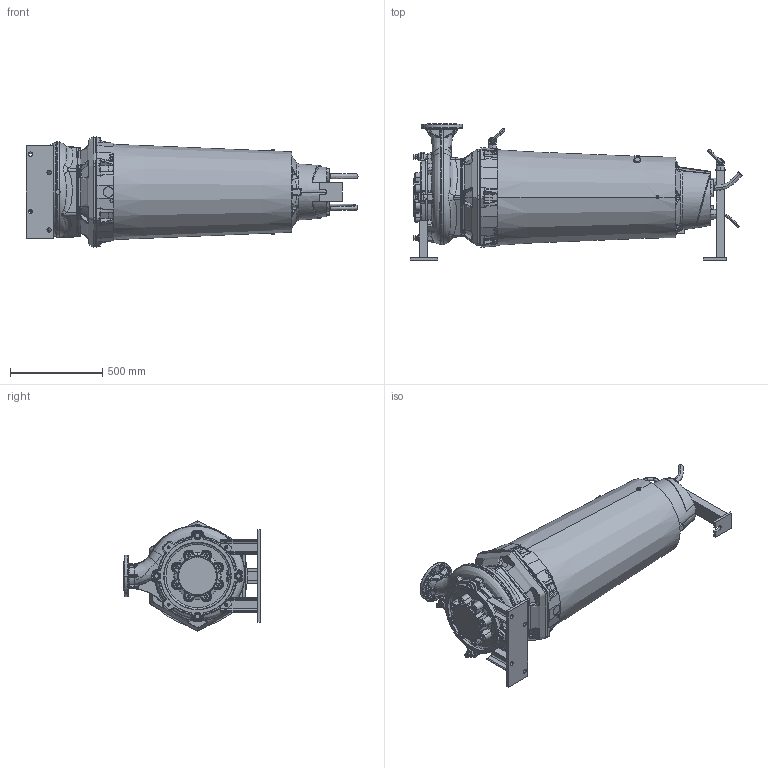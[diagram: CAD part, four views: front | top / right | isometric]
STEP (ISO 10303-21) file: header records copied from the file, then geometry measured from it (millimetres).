
FILE_DESCRIPTION (( 'STEP AP214' ), '1' );
FILE_NAME ('PE5_XFP105J-CB2_DRY HA_B_NG2.STEP', '2017-01-23T07:24:28', ( '' ), ( '' ), 'SwSTEP 2.0', 'SolidWorks 2017', '' );
FILE_SCHEMA (( 'AUTOMOTIVE_DESIGN' ));
Length unit declared in the file: millimetre
Products named in the file (1): PE5_XFP105J-CB2_DRY HA_B_NG2
Bounding box: 1796.83 x 740.56 x 595.59 mm (x, y, z)
Volume: 269328091 mm3; surface area: 3659920.7 mm2
Topology: 5 solids, 20 shells, 2846 faces, 7201 edges, 4382 vertices
Faces by surface type: plane 766, bspline 755, cylinder 573, cone 378, torus 291, sphere 83
Entity records: 234862 total; most frequent: CARTESIAN_POINT 141631, ORIENTED_EDGE 14258, DIRECTION 11379, EDGE_CURVE 7129, AXIS2_PLACEMENT_3D 4627, VERTEX_POINT 4378, EDGE_LOOP 2967, UNCERTAINTY_MEASURE_WITH_UNIT 2853
